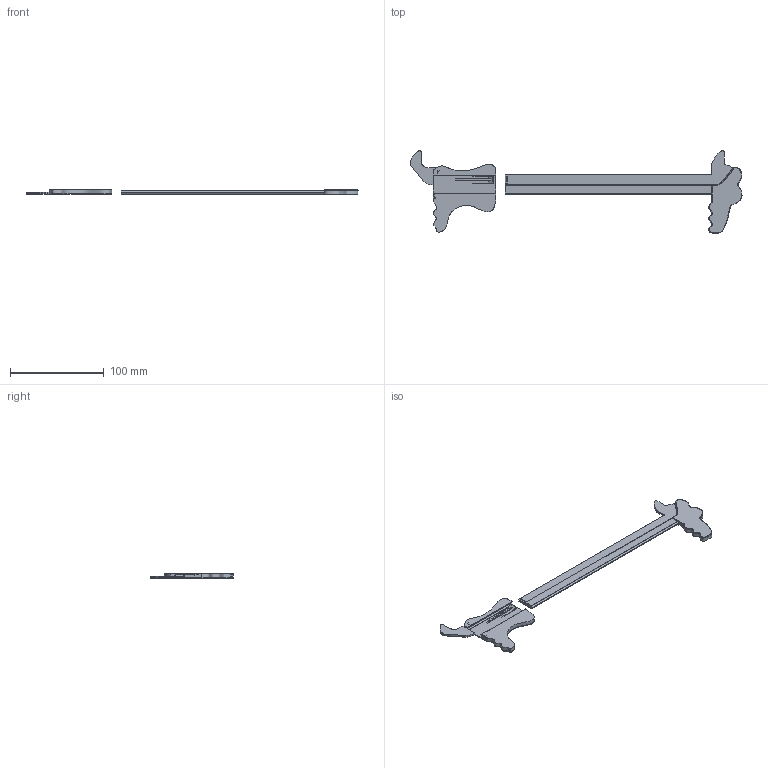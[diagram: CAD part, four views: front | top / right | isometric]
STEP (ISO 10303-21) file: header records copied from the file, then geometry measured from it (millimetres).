
FILE_DESCRIPTION(/* description */ (''),/* implementation_level */ '2;1');
FILE_NAME(/* name */ 'croc-calipers-inch-step.step',/* time_stamp */ '2025-11-22T07:16:05-07:00',/* author */ (''),/* organization */ (''),/* preprocessor_version */ 'ST-DEVELOPER v20.1',/* originating_system */ 'Autodesk Translation Framework v14.21.0.0',/* authorisation */ '');
FILE_SCHEMA (('AUTOMOTIVE_DESIGN { 1 0 10303 214 3 1 1 }'));
Products named in the file (1): croc-calipers-inch
Bounding box: 353.24 x 87.82 x 5 mm (x, y, z)
Volume: 36247.1 mm3; surface area: 27445 mm2
Topology: 27 solids, 27 shells, 2842 faces, 8236 edges, 5472 vertices
Faces by surface type: plane 2272, bspline 502, cylinder 61, torus 7
Full cylindrical faces by diameter (mm): 1 x12
Entity records: 100424 total; most frequent: CARTESIAN_POINT 28798, ORIENTED_EDGE 16472, DIRECTION 12072, EDGE_CURVE 8236, LINE 7110, VECTOR 7110, VERTEX_POINT 5472, EDGE_LOOP 2882
